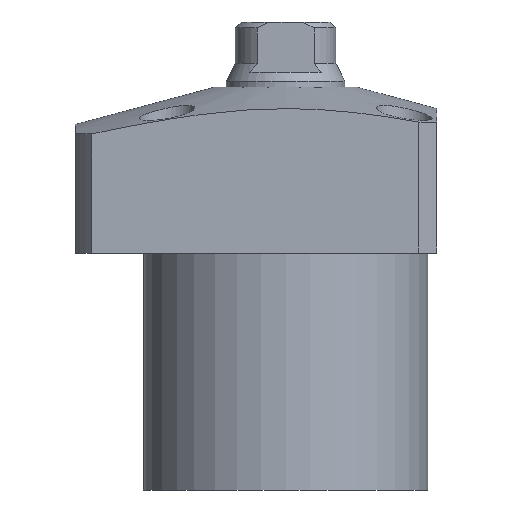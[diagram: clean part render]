
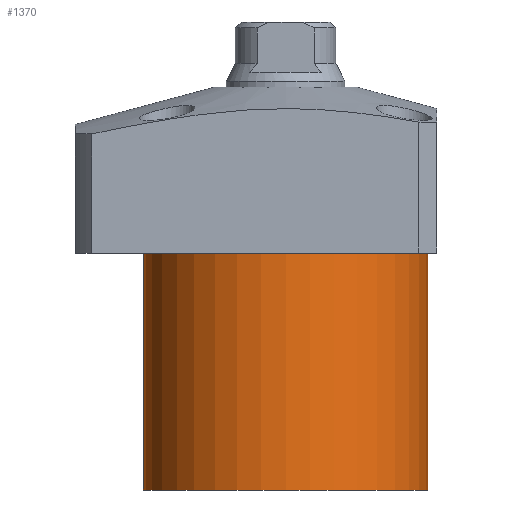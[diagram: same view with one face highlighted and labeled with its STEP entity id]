
A CAD part, front view. The second image highlights one B-rep face of the part: STEP entity #1370.
In plain terms, the highlighted cylindrical face has radius 24 mm (diameter 48 mm), a partial arc.
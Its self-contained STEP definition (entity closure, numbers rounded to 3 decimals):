
#25 = DIRECTION ( 'NONE',  ( 0., 0., 1. ) ) ;
#50 = CARTESIAN_POINT ( 'NONE',  ( 24., 0., -14. ) ) ;
#52 = DIRECTION ( 'NONE',  ( 0., 0., 1. ) ) ;
#156 = LINE ( 'NONE', #1978, #2429 ) ;
#182 = VERTEX_POINT ( 'NONE', #734 ) ;
#478 = EDGE_CURVE ( 'NONE', #1385, #520, #2370, .T. ) ;
#506 = CYLINDRICAL_SURFACE ( 'NONE', #1628, 24. ) ;
#520 = VERTEX_POINT ( 'NONE', #50 ) ;
#544 = CARTESIAN_POINT ( 'NONE',  ( -24., 0., -54. ) ) ;
#617 = EDGE_CURVE ( 'NONE', #1385, #917, #1567, .T. ) ;
#734 = CARTESIAN_POINT ( 'NONE',  ( -24., 0., -14. ) ) ;
#786 = CIRCLE ( 'NONE', #1559, 24. ) ;
#884 = DIRECTION ( 'NONE',  ( 0., 0., -1. ) ) ;
#892 = DIRECTION ( 'NONE',  ( -1., 0., 0. ) ) ;
#907 = VECTOR ( 'NONE', #25, 1000. ) ;
#917 = VERTEX_POINT ( 'NONE', #544 ) ;
#932 = DIRECTION ( 'NONE',  ( 1., 0., 0. ) ) ;
#942 = DIRECTION ( 'NONE',  ( 0., 0., -1. ) ) ;
#965 = CARTESIAN_POINT ( 'NONE',  ( 0., 0., -54. ) ) ;
#989 = CARTESIAN_POINT ( 'NONE',  ( 24., 0., -54. ) ) ;
#1155 = ORIENTED_EDGE ( 'NONE', *, *, #617, .F. ) ;
#1261 = CARTESIAN_POINT ( 'NONE',  ( 0., 0., -14. ) ) ;
#1292 = ORIENTED_EDGE ( 'NONE', *, *, #2092, .T. ) ;
#1370 = ADVANCED_FACE ( 'NONE', ( #2330 ), #506, .T. ) ;
#1385 = VERTEX_POINT ( 'NONE', #2299 ) ;
#1559 = AXIS2_PLACEMENT_3D ( 'NONE', #1261, #942, #932 ) ;
#1567 = CIRCLE ( 'NONE', #1890, 24. ) ;
#1628 = AXIS2_PLACEMENT_3D ( 'NONE', #965, #2121, #2066 ) ;
#1829 = EDGE_CURVE ( 'NONE', #917, #182, #156, .T. ) ;
#1868 = CARTESIAN_POINT ( 'NONE',  ( 0., 0., -54. ) ) ;
#1890 = AXIS2_PLACEMENT_3D ( 'NONE', #1868, #884, #892 ) ;
#1978 = CARTESIAN_POINT ( 'NONE',  ( -24., 0., -54. ) ) ;
#2022 = EDGE_LOOP ( 'NONE', ( #2085, #1155, #2234, #1292 ) ) ;
#2066 = DIRECTION ( 'NONE',  ( 1., 0., 0. ) ) ;
#2085 = ORIENTED_EDGE ( 'NONE', *, *, #1829, .F. ) ;
#2092 = EDGE_CURVE ( 'NONE', #520, #182, #786, .T. ) ;
#2121 = DIRECTION ( 'NONE',  ( 0., 0., 1. ) ) ;
#2234 = ORIENTED_EDGE ( 'NONE', *, *, #478, .T. ) ;
#2299 = CARTESIAN_POINT ( 'NONE',  ( 24., 0., -54. ) ) ;
#2330 = FACE_OUTER_BOUND ( 'NONE', #2022, .T. ) ;
#2370 = LINE ( 'NONE', #989, #907 ) ;
#2429 = VECTOR ( 'NONE', #52, 1000. ) ;
